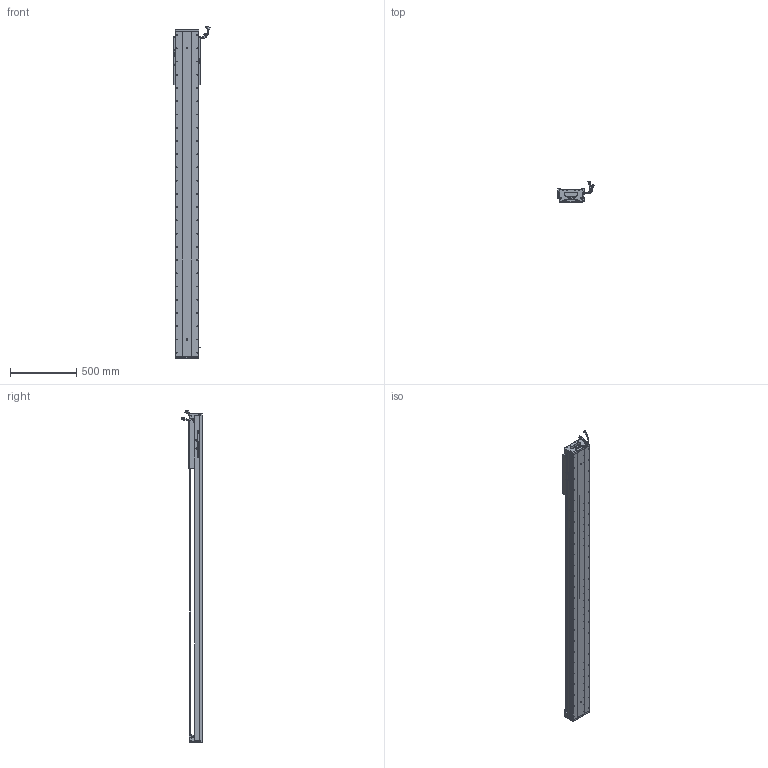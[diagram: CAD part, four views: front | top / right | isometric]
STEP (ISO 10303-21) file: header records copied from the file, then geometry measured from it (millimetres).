
FILE_DESCRIPTION (( 'STEP AP203' ), '1' );
FILE_NAME ('Z5-RY170D-1-L500-B-K.SLDASM_2000.step', '2021-05-18T00:42:21', ( '盈信电脑' ), ( '东莞市道滘镇水果街19号' ), 'SwSTEP 2.0', 'SolidWorks 2016', '' );
FILE_SCHEMA (( 'CONFIG_CONTROL_DESIGN' ));
Length unit declared in the file: millimetre
Products named in the file (36): HARNESS-Part-2; Z5-RY170D-1-L500-B-K.SLDASM_2000; SCALE; SCREW-M1.6-2; 榋妏寠巭燃_暯_M2_2; SCALE-Part-2; SCREW-M1.6-1; 080黍杅芛假蚾釱21遴; 170-Z-臏賑輸盄裔(21遴); HARNESS; SCREW-M1.6-3; HARNESS-Part-1; 140雄赽晤鎢ん堤盄; 140蚥薯蝶輸; SEAL-Part-1; PSLH080_PSLF2; PBU_SHEET; COVER; SCREW-M1.7-1; SCALE-Part-1; SCREW-M1.6; LABEL; Z5-RY170臏賑輸(21遴); LABEL-Part-1; SCREW-M1.7; SHIELDPLATE; Z-RY170詩湍狟揤裔; RY170直线电机感应器672光电感应片; Z-170詩湍傷裔啣; Z5-RY170-L500詩湍145mm遵_2000; SEAL; COVER-Part-1; HOLDER0; Z-RY170詩湍奻揤裔; 覜茼ん672; Z5-RY170-L500耀郪菁釱_2000
Assembly tree (41 placements, depth 4):
  Z5-RY170D-1-L500-B-K.SLDASM_2000
    Z5-RY170-L500耀郪菁釱_2000
    RY170直线电机感应器672光电感应片
    Z5-RY170臏賑輸(21遴)
    覜茼ん672  x3
    PSLH080_PSLF2
      SCALE
        SCALE-Part-1
        SCALE-Part-2
      HARNESS
        HARNESS-Part-1
        HARNESS-Part-2
      LABEL
        LABEL-Part-1
      COVER
        COVER-Part-1
      SEAL
        SEAL-Part-1
      榋妏寠巭燃_暯_M2_2
      SHIELDPLATE
      SCREW-M1.7
      SCREW-M1.7-1
      PBU_SHEET
      SCREW-M1.6
      SCREW-M1.6-1
      SCREW-M1.6-2
      SCREW-M1.6-3
      HOLDER0
    080黍杅芛假蚾釱21遴
    Z5-RY170-L500詩湍145mm遵_2000
    Z-170詩湍傷裔啣  x2
    Z-RY170詩湍奻揤裔  x2
    Z-RY170詩湍狟揤裔  x2
    140蚥薯蝶輸  x2
    170-Z-臏賑輸盄裔(21遴)
    140雄赽晤鎢ん堤盄
Bounding box: 275.34 x 158.11 x 2508.72 mm (x, y, z)
Volume: 13142053.5 mm3; surface area: 3170145 mm2
Topology: 36 solids, 36 shells, 4112 faces, 11381 edges, 7119 vertices
Faces by surface type: cylinder 2084, plane 1330, cone 576, torus 69, bspline 53
Entity records: 129429 total; most frequent: CARTESIAN_POINT 35918, ORIENTED_EDGE 19230, DIRECTION 18019, EDGE_CURVE 9615, AXIS2_PLACEMENT_3D 6666, VERTEX_POINT 6237, VECTOR 4687, LINE 4687
